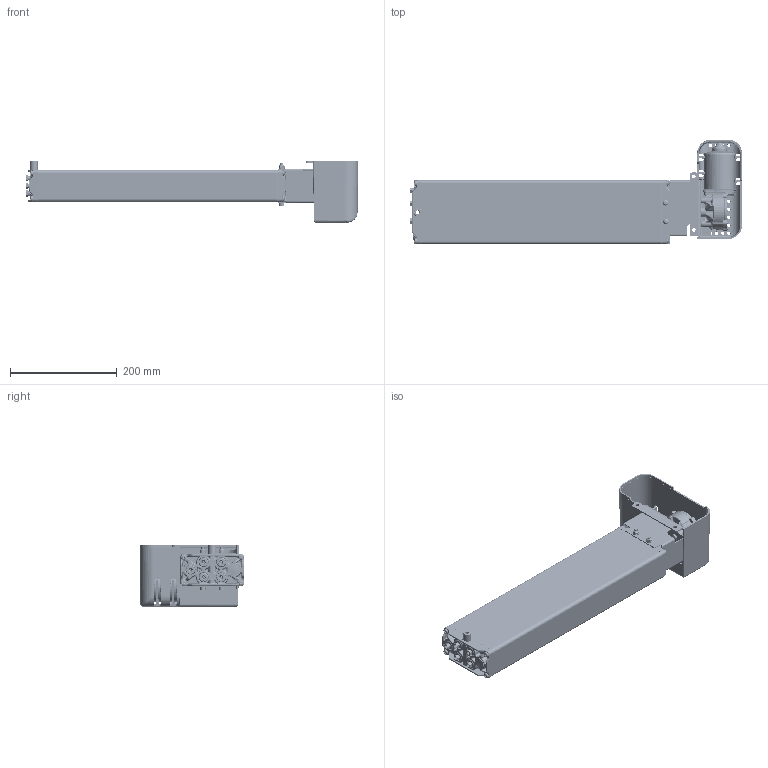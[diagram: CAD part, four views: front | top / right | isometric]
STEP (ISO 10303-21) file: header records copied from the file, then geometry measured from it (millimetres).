
FILE_DESCRIPTION(/* description */ ('Unknown'),/* implementation_level */ '2;1');
FILE_NAME(/* name */ '3X2.20033 Pumpe PB 5830 W mit Antrieb',/* time_stamp */ '2016-10-21T15:56:53+02:00',/* author */ ('Unknown'),/* organization */ ('Unknown'),/* preprocessor_version */ 'ST-DEVELOPER v16.7',/* originating_system */ 'DEX',/* authorisation */ $);
FILE_SCHEMA (('AUTOMOTIVE_DESIGN {1 0 10303 214 3 1 1}'));
Products named in the file (32): 102.20033; 115.00033; 125.00045; 115.00008; 142.00021; 125.00021; 142.00013; 142.00110; 125.00143; 115.00140; 126.00006; 122.00040; 119.00043; 126.00005; 127.00201; 127.00200; 127.00023; 124.00090; Getriebe; Ring; Schraube; Stator; Abdeckplatte; Antriebswelle; 128.00051; 123.00031; 142.00018; 142.00019; 142.00025; 142.00131; 123.00029; 142.00057
Assembly tree (47 placements, depth 3):
  102.20033
    115.00033  x5
      125.00045
      115.00008
      142.00021
      125.00021
    142.00013  x8
    142.00110
    125.00143
    115.00140
      126.00006
      122.00040
    119.00043
    126.00005
    127.00201
      127.00200
      127.00023
    124.00090
      Getriebe
      Ring
      Schraube
      Stator
      Abdeckplatte
      Antriebswelle
    128.00051
    123.00031
    142.00018  x2
    142.00019  x2
    142.00025  x2
    142.00131  x3
    123.00029
    142.00057
Bounding box: 623.42 x 196.04 x 115.45 mm (x, y, z)
Volume: 1120350.8 mm3; surface area: 717580.4 mm2
Topology: 50 solids, 52 shells, 4821 faces, 12210 edges, 7401 vertices
Faces by surface type: bspline 1367, plane 1316, cylinder 1269, cone 501, torus 268, sphere 100
Full cylindrical faces by diameter (mm): 2.5 x4, 3.2 x4, 3.5 x5, 3.9 x5, 4.1 x5, 4.2 x7, 4.4 x5, 4.5 x1, 4.917 x2, 5 x8, 5.5 x5, 6 x6, 6.4 x2, 6.8 x5, 6.917 x10, 7 x1, 8 x12, 8.5 x6, 9 x2, 9.5 x1, 9.8 x8, 10 x8, 10.3 x1, 10.32 x1, 10.4 x1, 11 x5, 14 x2, 14.4 x5, 15 x1, 15.8 x1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
Entity records: 202744 total; most frequent: CARTESIAN_POINT 105890, ORIENTED_EDGE 19228, DIRECTION 14239, EDGE_CURVE 9614, VERTEX_POINT 6195, AXIS2_PLACEMENT_3D 5608, FACE_BOUND 4601, EDGE_LOOP 4596
